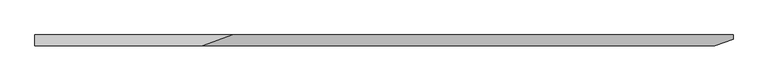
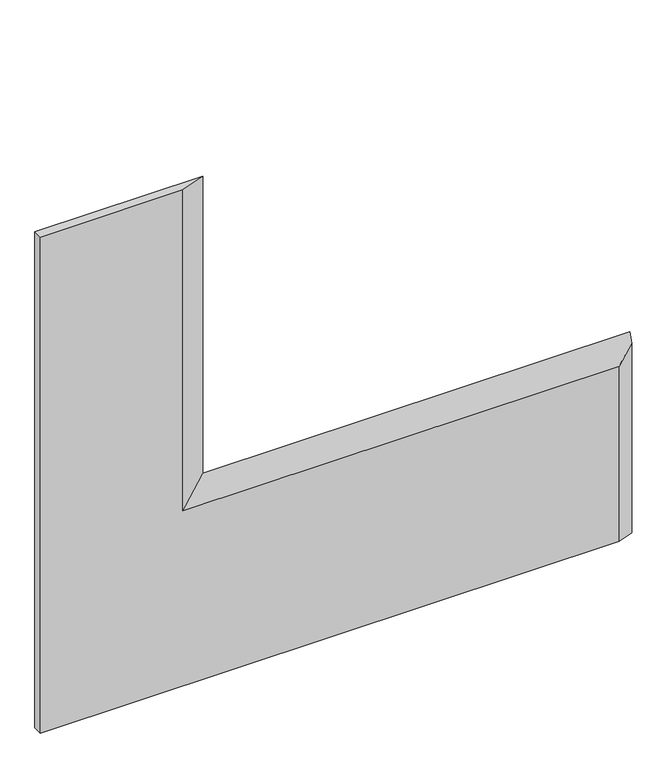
"""IFC4 building model written with IfcOpenShell, lengths in millimetres: proxy geometry, ELEVATE^ADMIN_84.5x74.5-BOOM RT WORKSURFACE."""

from ifc_helpers import new_model, si_unit, origin, place, context, project, spatial, faceted_brep, source, transform, mapped, element, save


def generic_models_bbd4649e(model_context):
    return source(origin(), model_context, "Body", "Brep", [
        faceted_brep([(2146.3, 33.3375, 758.7929632), (606.3929632, 33.3375, 758.7929632), (514.7989348, 0.0, 667.1989348), (2089.5989348, 0.0, 667.1989348), (2146.3, 20.6375, 723.9), (606.3929632, 33.3375, 1892.3), (514.7989348, 0.0, 1892.3), (0.0, 33.3375, 1892.3), (0.0, 0.0, 1892.3), (2146.3, 33.3375, 0.0), (2146.3, 20.6375, 0.0), (2089.5989348, 0.0, 0.0), (0.0, 0.0, 0.0), (0.0, 33.3375, 0.0)], [[[0, 1, 2, 3, 4]], [[1, 5, 6, 2]], [[6, 5, 7, 8]], [[9, 0, 4, 10]], [[4, 3, 11, 10]], [[10, 11, 12, 13, 9]], [[8, 12, 11, 3, 2, 6]], [[1, 0, 9, 13, 7, 5]], [[12, 8, 7, 13]]]),
    ])


if __name__ == "__main__":
    model = new_model("IFC4")
    model_context = context("Model", 3, world=origin())
    ifc_project = project(units=[si_unit("LENGTHUNIT", "METRE", prefix="MILLI")], contexts=[model_context])
    site = spatial("IfcSite", under=ifc_project)
    building = spatial("IfcBuilding", under=site)
    placement = place(None, origin())
    generic_models_shape = generic_models_bbd4649e(model_context)
    element("IfcBuildingElementProxy", 1, Name="ELEVATE^ADMIN_84.5x74.5-BOOM RT WORKSURFACE", ObjectType="ELEVATE^ADMIN_84.5x74.5-BOOM RT WORKSURFACE", at=placement, inside=building, context=model_context, shape_type="MappedRepresentation", body=[
        mapped(generic_models_shape, transform((0.0, 0.0, 0.0), x_axis=(1.0, 0.0, 0.0), y_axis=(0.0, 1.0, 0.0), z_axis=(0.0, 0.0, 1.0))),
    ])
    save(model, "model.ifc")
